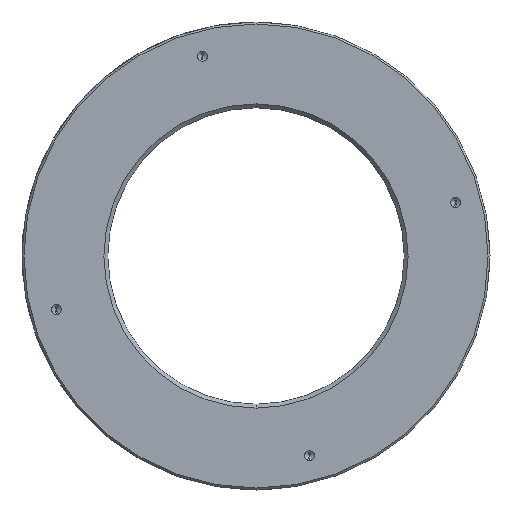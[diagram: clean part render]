
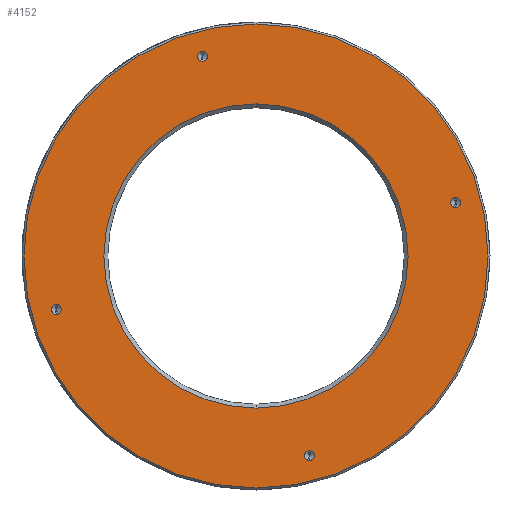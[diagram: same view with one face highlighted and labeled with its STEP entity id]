
A CAD part, front view. The second image highlights one B-rep face of the part: STEP entity #4152.
In plain terms, the highlighted planar face has unit normal (0, -1, 0).
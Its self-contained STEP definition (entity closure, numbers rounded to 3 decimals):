
#7 = ORIENTED_EDGE ( 'NONE', *, *, #2696, .F. ) ;
#104 = VERTEX_POINT ( 'NONE', #3048 ) ;
#174 = DIRECTION ( 'NONE',  ( 0., 0., -1. ) ) ;
#204 = DIRECTION ( 'NONE',  ( 0., -1., 0. ) ) ;
#249 = VERTEX_POINT ( 'NONE', #2421 ) ;
#321 = AXIS2_PLACEMENT_3D ( 'NONE', #3941, #2283, #3068 ) ;
#332 = CIRCLE ( 'NONE', #4402, 59.5 ) ;
#365 = CARTESIAN_POINT ( 'NONE',  ( -51.194, 0., -14.967 ) ) ;
#408 = EDGE_CURVE ( 'NONE', #104, #4588, #2479, .T. ) ;
#474 = DIRECTION ( 'NONE',  ( 0., -1., 0. ) ) ;
#531 = PLANE ( 'NONE',  #4089 ) ;
#551 = CARTESIAN_POINT ( 'NONE',  ( 0., 0., 0. ) ) ;
#553 = EDGE_LOOP ( 'NONE', ( #7, #4644 ) ) ;
#560 = FACE_BOUND ( 'NONE', #3621, .T. ) ;
#595 = ORIENTED_EDGE ( 'NONE', *, *, #2714, .F. ) ;
#602 = CIRCLE ( 'NONE', #1801, 1.25 ) ;
#604 = EDGE_CURVE ( 'NONE', #4354, #1065, #2885, .T. ) ;
#612 = DIRECTION ( 'NONE',  ( 0., 1., 0. ) ) ;
#789 = CIRCLE ( 'NONE', #4605, 39. ) ;
#892 = CIRCLE ( 'NONE', #2175, 59.5 ) ;
#931 = DIRECTION ( 'NONE',  ( 0., 0., -1. ) ) ;
#940 = FACE_BOUND ( 'NONE', #553, .T. ) ;
#1026 = VERTEX_POINT ( 'NONE', #2382 ) ;
#1041 = DIRECTION ( 'NONE',  ( 0., 0., -1. ) ) ;
#1065 = VERTEX_POINT ( 'NONE', #2855 ) ;
#1072 = DIRECTION ( 'NONE',  ( 0., -1., 0. ) ) ;
#1073 = CIRCLE ( 'NONE', #1472, 1.25 ) ;
#1107 = EDGE_CURVE ( 'NONE', #1121, #249, #789, .T. ) ;
#1121 = VERTEX_POINT ( 'NONE', #2127 ) ;
#1147 = CIRCLE ( 'NONE', #3298, 1.25 ) ;
#1174 = EDGE_LOOP ( 'NONE', ( #3955, #1998 ) ) ;
#1226 = CIRCLE ( 'NONE', #321, 39. ) ;
#1229 = VERTEX_POINT ( 'NONE', #1469 ) ;
#1321 = DIRECTION ( 'NONE',  ( 0., 0., 1. ) ) ;
#1466 = CARTESIAN_POINT ( 'NONE',  ( 51.194, 0., 14.967 ) ) ;
#1469 = CARTESIAN_POINT ( 'NONE',  ( 0., 0., 59.5 ) ) ;
#1472 = AXIS2_PLACEMENT_3D ( 'NONE', #2690, #3512, #4215 ) ;
#1501 = DIRECTION ( 'NONE',  ( 0., 0., 1. ) ) ;
#1551 = AXIS2_PLACEMENT_3D ( 'NONE', #1777, #204, #174 ) ;
#1607 = ORIENTED_EDGE ( 'NONE', *, *, #408, .F. ) ;
#1635 = ORIENTED_EDGE ( 'NONE', *, *, #4482, .F. ) ;
#1721 = CARTESIAN_POINT ( 'NONE',  ( 51.194, 0., 13.717 ) ) ;
#1740 = CARTESIAN_POINT ( 'NONE',  ( 13.717, 0., -51.194 ) ) ;
#1777 = CARTESIAN_POINT ( 'NONE',  ( -13.717, 0., 51.194 ) ) ;
#1779 = EDGE_LOOP ( 'NONE', ( #1635, #4671 ) ) ;
#1785 = AXIS2_PLACEMENT_3D ( 'NONE', #1740, #2442, #931 ) ;
#1796 = CIRCLE ( 'NONE', #3701, 1.25 ) ;
#1801 = AXIS2_PLACEMENT_3D ( 'NONE', #3594, #3145, #3543 ) ;
#1806 = CARTESIAN_POINT ( 'NONE',  ( -51.194, 0., -13.717 ) ) ;
#1824 = EDGE_CURVE ( 'NONE', #249, #1121, #1226, .T. ) ;
#1852 = ORIENTED_EDGE ( 'NONE', *, *, #3401, .F. ) ;
#1931 = CARTESIAN_POINT ( 'NONE',  ( 0., 0., -59.5 ) ) ;
#1948 = CIRCLE ( 'NONE', #1551, 1.25 ) ;
#1996 = DIRECTION ( 'NONE',  ( 0., 0., -1. ) ) ;
#1998 = ORIENTED_EDGE ( 'NONE', *, *, #1824, .T. ) ;
#2110 = FACE_BOUND ( 'NONE', #1779, .T. ) ;
#2127 = CARTESIAN_POINT ( 'NONE',  ( 0., 0., -39. ) ) ;
#2175 = AXIS2_PLACEMENT_3D ( 'NONE', #551, #612, #3585 ) ;
#2179 = EDGE_CURVE ( 'NONE', #3016, #2378, #4253, .T. ) ;
#2228 = VERTEX_POINT ( 'NONE', #3519 ) ;
#2283 = DIRECTION ( 'NONE',  ( 0., 1., 0. ) ) ;
#2370 = FACE_OUTER_BOUND ( 'NONE', #3514, .T. ) ;
#2378 = VERTEX_POINT ( 'NONE', #365 ) ;
#2382 = CARTESIAN_POINT ( 'NONE',  ( -13.717, 0., 49.944 ) ) ;
#2384 = DIRECTION ( 'NONE',  ( 0., -1., 0. ) ) ;
#2421 = CARTESIAN_POINT ( 'NONE',  ( 0., 0., 39. ) ) ;
#2442 = DIRECTION ( 'NONE',  ( 0., -1., 0. ) ) ;
#2479 = CIRCLE ( 'NONE', #3747, 1.25 ) ;
#2595 = CARTESIAN_POINT ( 'NONE',  ( 13.717, 0., -49.944 ) ) ;
#2600 = EDGE_CURVE ( 'NONE', #2228, #1026, #1073, .T. ) ;
#2611 = DIRECTION ( 'NONE',  ( 0., 1., 0. ) ) ;
#2690 = CARTESIAN_POINT ( 'NONE',  ( -13.717, 0., 51.194 ) ) ;
#2696 = EDGE_CURVE ( 'NONE', #2378, #3016, #602, .T. ) ;
#2714 = EDGE_CURVE ( 'NONE', #4588, #104, #1147, .T. ) ;
#2855 = CARTESIAN_POINT ( 'NONE',  ( 13.717, 0., -52.444 ) ) ;
#2885 = CIRCLE ( 'NONE', #1785, 1.25 ) ;
#3016 = VERTEX_POINT ( 'NONE', #4445 ) ;
#3048 = CARTESIAN_POINT ( 'NONE',  ( 51.194, 0., 12.467 ) ) ;
#3068 = DIRECTION ( 'NONE',  ( 0., 0., 1. ) ) ;
#3114 = EDGE_CURVE ( 'NONE', #4839, #1229, #332, .T. ) ;
#3145 = DIRECTION ( 'NONE',  ( 0., -1., 0. ) ) ;
#3202 = CARTESIAN_POINT ( 'NONE',  ( 0., 0., 0. ) ) ;
#3298 = AXIS2_PLACEMENT_3D ( 'NONE', #1721, #4668, #4692 ) ;
#3360 = CARTESIAN_POINT ( 'NONE',  ( 13.717, 0., -51.194 ) ) ;
#3401 = EDGE_CURVE ( 'NONE', #1229, #4839, #892, .T. ) ;
#3405 = ORIENTED_EDGE ( 'NONE', *, *, #4409, .F. ) ;
#3512 = DIRECTION ( 'NONE',  ( 0., -1., 0. ) ) ;
#3514 = EDGE_LOOP ( 'NONE', ( #1852, #4655 ) ) ;
#3519 = CARTESIAN_POINT ( 'NONE',  ( -13.717, 0., 52.444 ) ) ;
#3543 = DIRECTION ( 'NONE',  ( 0., 0., -1. ) ) ;
#3585 = DIRECTION ( 'NONE',  ( 0., 0., 1. ) ) ;
#3594 = CARTESIAN_POINT ( 'NONE',  ( -51.194, 0., -13.717 ) ) ;
#3621 = EDGE_LOOP ( 'NONE', ( #1607, #595 ) ) ;
#3623 = FACE_BOUND ( 'NONE', #1174, .T. ) ;
#3667 = DIRECTION ( 'NONE',  ( 0., -1., 0. ) ) ;
#3675 = ORIENTED_EDGE ( 'NONE', *, *, #604, .F. ) ;
#3701 = AXIS2_PLACEMENT_3D ( 'NONE', #3360, #2384, #3812 ) ;
#3747 = AXIS2_PLACEMENT_3D ( 'NONE', #4155, #3667, #1041 ) ;
#3812 = DIRECTION ( 'NONE',  ( 0., 0., -1. ) ) ;
#3941 = CARTESIAN_POINT ( 'NONE',  ( 0., 0., 0. ) ) ;
#3955 = ORIENTED_EDGE ( 'NONE', *, *, #1107, .T. ) ;
#4089 = AXIS2_PLACEMENT_3D ( 'NONE', #4261, #474, #1996 ) ;
#4152 = ADVANCED_FACE ( 'NONE', ( #2110, #940, #4689, #560, #3623, #2370 ), #531, .T. ) ;
#4155 = CARTESIAN_POINT ( 'NONE',  ( 51.194, 0., 13.717 ) ) ;
#4215 = DIRECTION ( 'NONE',  ( 0., 0., -1. ) ) ;
#4253 = CIRCLE ( 'NONE', #4890, 1.25 ) ;
#4261 = CARTESIAN_POINT ( 'NONE',  ( -39., 0., 0. ) ) ;
#4354 = VERTEX_POINT ( 'NONE', #2595 ) ;
#4388 = EDGE_LOOP ( 'NONE', ( #3405, #3675 ) ) ;
#4402 = AXIS2_PLACEMENT_3D ( 'NONE', #4883, #2611, #1501 ) ;
#4409 = EDGE_CURVE ( 'NONE', #1065, #4354, #1796, .T. ) ;
#4445 = CARTESIAN_POINT ( 'NONE',  ( -51.194, 0., -12.467 ) ) ;
#4482 = EDGE_CURVE ( 'NONE', #1026, #2228, #1948, .T. ) ;
#4588 = VERTEX_POINT ( 'NONE', #1466 ) ;
#4605 = AXIS2_PLACEMENT_3D ( 'NONE', #3202, #4725, #1321 ) ;
#4644 = ORIENTED_EDGE ( 'NONE', *, *, #2179, .F. ) ;
#4655 = ORIENTED_EDGE ( 'NONE', *, *, #3114, .F. ) ;
#4668 = DIRECTION ( 'NONE',  ( 0., -1., 0. ) ) ;
#4671 = ORIENTED_EDGE ( 'NONE', *, *, #2600, .F. ) ;
#4689 = FACE_BOUND ( 'NONE', #4388, .T. ) ;
#4692 = DIRECTION ( 'NONE',  ( 0., 0., -1. ) ) ;
#4725 = DIRECTION ( 'NONE',  ( 0., 1., 0. ) ) ;
#4835 = DIRECTION ( 'NONE',  ( 0., 0., -1. ) ) ;
#4839 = VERTEX_POINT ( 'NONE', #1931 ) ;
#4883 = CARTESIAN_POINT ( 'NONE',  ( 0., 0., 0. ) ) ;
#4890 = AXIS2_PLACEMENT_3D ( 'NONE', #1806, #1072, #4835 ) ;
